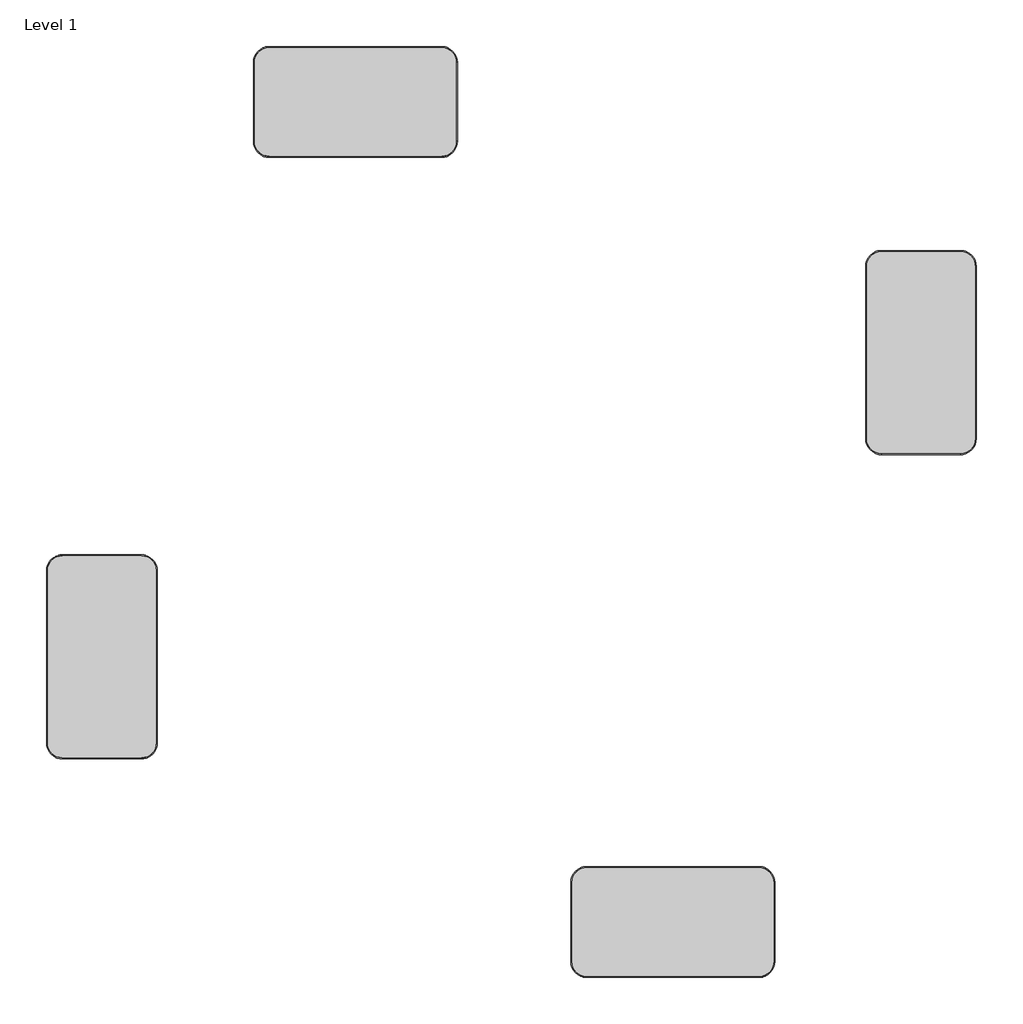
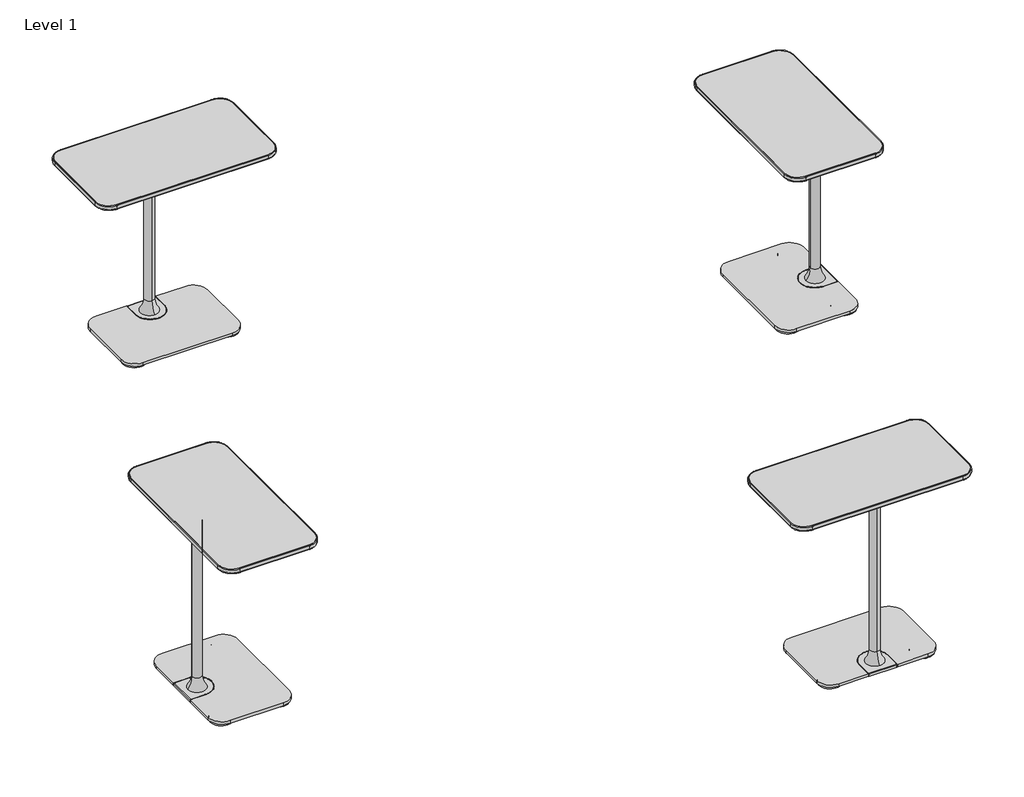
# One storey, incomplete: 4 furniture elements.
"""IFC4 building model written with IfcOpenShell, lengths in millimetres."""

from ifc_helpers import new_model, si_unit, origin, place, context, project, spatial, transform, mapped, element, save
from components import furniture_d2e51079

model = new_model("IFC4")

# Units and contexts
model_context = context("Model", 3, world=origin())
ifc_project = project(units=[si_unit("LENGTHUNIT", "METRE", prefix="MILLI")], contexts=[model_context])

# Site, building, storey
site = spatial("IfcSite", under=ifc_project)
building = spatial("IfcBuilding", under=site)
storey = spatial("IfcBuildingStorey", under=building, Name="Level 1", Elevation=0.0)

# Furniture
placement = place(None, origin())
furniture_shape = furniture_d2e51079(model_context)
element("IfcFurniture", 1, ObjectType="Steelcase Coalesse - Lagunitas - Table - Personal (3) : 13D x 24W", at=placement, inside=storey, context=model_context, shape_type="MappedRepresentation", body=[
    mapped(furniture_shape, transform((-37615.5990024, -230095.1520073, 0.0), x_axis=(-1.0, 0.0, 0.0), y_axis=(0.0, -1.0, 0.0), z_axis=(0.0, 0.0, 1.0))),
])
element("IfcFurniture", 2, ObjectType="Steelcase Coalesse - Lagunitas - Table - Personal (3) : 13D x 24W", at=placement, inside=storey, context=model_context, shape_type="MappedRepresentation", body=[
    mapped(furniture_shape, transform((-36875.8736159, -228397.1816849, 0.0), x_axis=(0.0, -0.9999999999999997, 0.0), y_axis=(0.9999999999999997, 0.0, 0.0), z_axis=(0.0, 0.0, 1.0))),
])
element("IfcFurniture", 3, ObjectType="Steelcase Coalesse - Lagunitas - Table - Personal (3) : 13D x 24W", at=placement, inside=storey, context=model_context, shape_type="MappedRepresentation", body=[
    mapped(furniture_shape, transform((-38562.8970387, -227650.2598511, 0.0), x_axis=(0.9999999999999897, 1.4289816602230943e-07, 0.0), y_axis=(-1.4289816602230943e-07, 0.9999999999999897, 0.0), z_axis=(0.0, 0.0, 1.0))),
])
element("IfcFurniture", 4, ObjectType="Steelcase Coalesse - Lagunitas - Table - Personal (3) : 13D x 24W", at=placement, inside=storey, context=model_context, shape_type="MappedRepresentation", body=[
    mapped(furniture_shape, transform((-39318.7827655, -229304.7096606, 0.0), x_axis=(0.000159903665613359, 0.9999999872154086, 0.0), y_axis=(-0.9999999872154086, 0.000159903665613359, 0.0), z_axis=(0.0, 0.0, 1.0))),
])

save(model, "model.ifc")
